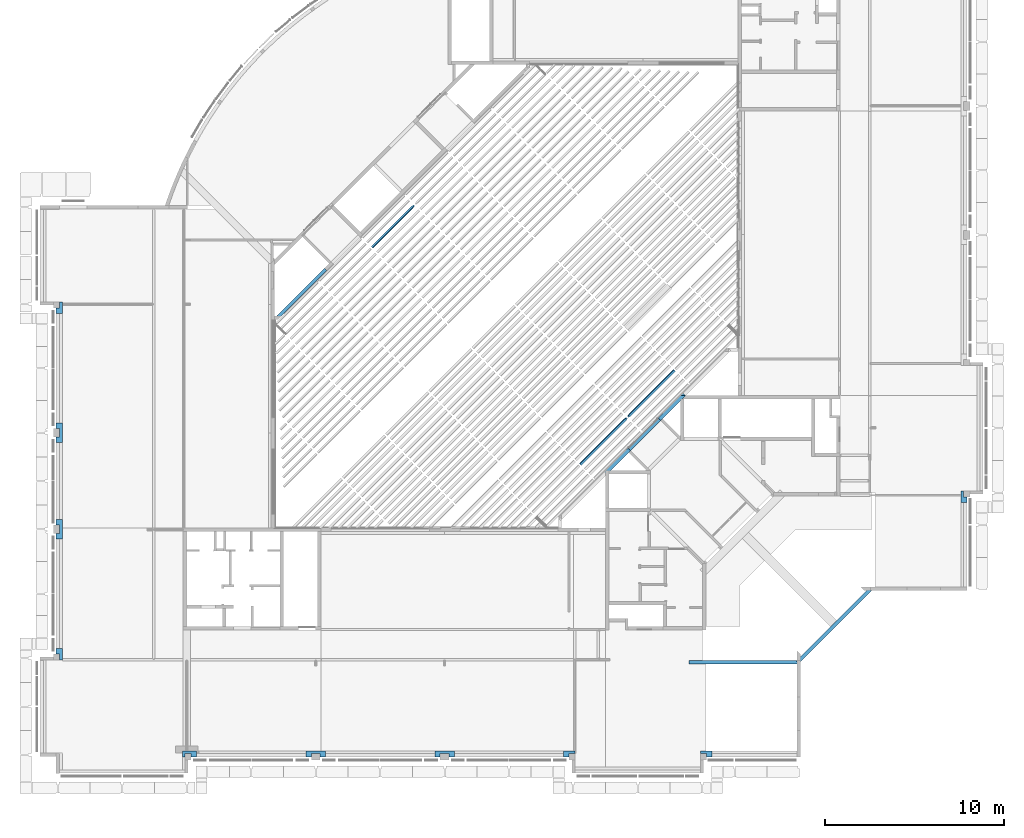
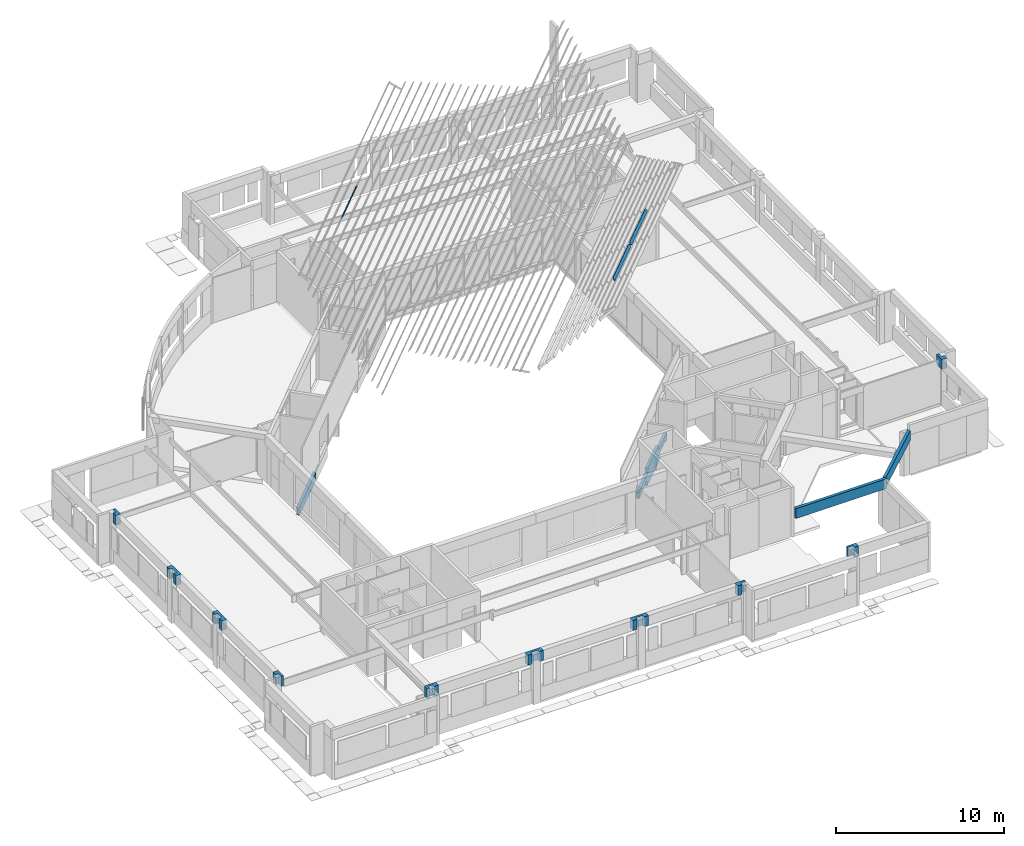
# One storey, part 32 of 37: 17 beams.
"""IFC4X3_ADD2 building model written with IfcOpenShell, lengths in millimetres."""

from ifc_helpers import new_model, si_unit, direction, frame, origin_with_axes, place, context, subcontext, project, spatial, triangles, polygons, source, transform, mapped, material, type_object, type_shapes, element, save


model = new_model("IFC4X3_ADD2")

# Units and contexts
model_context = context("Model", 3, precision=1e-05, world=origin_with_axes(), true_north=direction((0.0, 1.0)))
body_context = subcontext(model_context, "Body", "Model", "MODEL_VIEW")
ifc_project = project(units=[si_unit("LENGTHUNIT", "METRE", prefix="MILLI"), si_unit("AREAUNIT", "SQUARE_METRE"), si_unit("VOLUMEUNIT", "CUBIC_METRE"), si_unit("PLANEANGLEUNIT", "RADIAN"), si_unit("TIMEUNIT", "SECOND"), si_unit("MASSUNIT", "GRAM")], contexts=[model_context])

# Site, building, storey
site_placement = place(None, origin_with_axes())
site = spatial("IfcSite", under=ifc_project, at=site_placement, Name="Site", CompositionType="ELEMENT")
building_placement = place(site_placement, origin_with_axes())
building = spatial("IfcBuilding", under=site, at=building_placement, Name="IFC Building Story")
storey_placement = place(building_placement, frame((0.0, 0.0, 3600.0), z_axis=(0.0, 0.0, 1.0), x_axis=(1.0, 0.0, 0.0)))
storey = spatial("IfcBuildingStorey", under=building, at=storey_placement, Name="010", Elevation=3600.0)

# Beams
ifc_material_1 = material(Name="BB_Beton_Bestaand")
beam_type_1 = type_object("IfcBeamType", Name="BB_XX_Betonbalk_ rechthoekig_ center-center_SFB_340 x 720 mm87", PredefinedType="NOTDEFINED")
shared_shape_1 = source(origin_with_axes(), body_context, "Body", "Tessellation", [
    polygons([(-4.33146851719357e-12, 340.000000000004, 720.000000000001), (-4.33146851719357e-12, 340.000000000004, 0.0), (-4.33146851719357e-12, 3.51931817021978e-12, 0.0), (-4.33146851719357e-12, 3.51931817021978e-12, 720.000000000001), (1090.00000000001, 340.000000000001, 720.000000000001), (1090.00000000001, 0.0, 720.000000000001), (1090.00000000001, 0.0, 0.0), (1090.00000000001, 340.000000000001, 0.0), (789.999999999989, 0.0, 0.0), (789.999999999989, 190.000000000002, 0.0), (300.00000000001, 190.000000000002, 0.0), (300.00000000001, 2.5548896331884e-12, 0.0), (300.00000000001, 2.5548896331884e-12, 720.000000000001), (300.00000000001, 190.000000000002, 720.000000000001), (789.999999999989, 190.000000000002, 720.000000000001), (789.999999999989, 0.0, 720.000000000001)], [[[1, 2, 3, 4]], [[5, 6, 7, 8]], [[2, 1, 5, 8]], [[11, 12, 3]], [[11, 3, 2]], [[2, 8, 10]], [[2, 10, 11]], [[8, 7, 9]], [[8, 9, 10]], [[4, 3, 12, 13]], [[15, 16, 6]], [[15, 6, 5]], [[5, 1, 14]], [[5, 14, 15]], [[1, 4, 13]], [[1, 13, 14]], [[11, 14, 13, 12]], [[14, 11, 10, 15]], [[15, 10, 9, 16]], [[7, 6, 16, 9]]]),
])
type_shapes(beam_type_1, [shared_shape_1])
beam_1_placement = place(storey_placement, frame((-36845.0, -95.0, 2680.0), z_axis=(0.0, 0.0, 1.0), x_axis=(1.0, 0.0, 0.0)))
element("IfcBeam", 1, at=beam_1_placement, inside=storey, type_object=beam_type_1, material=ifc_material_1, Name="BB_XX_Betonbalk, rechthoekig, center-center_SFB:340 x 720 mm", ObjectType="BB_XX_Betonbalk, rechthoekig, center-center_SFB:340 x 720 mm", PredefinedType="BEAM", context=body_context, shape_type="MappedRepresentation", body=[
    mapped(shared_shape_1, transform((0.0, 0.0, 0.0))),
])
beam_type_2 = type_object("IfcBeamType", Name="BB_XX_Betonbalk_ rechthoekig_ center-center_SFB_340 x 720 mm89", PredefinedType="NOTDEFINED")
shared_shape_2 = source(origin_with_axes(), body_context, "Body", "Tessellation", [
    polygons([(-4.33146851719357e-12, 340.000000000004, 720.000000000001), (-4.33146851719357e-12, 340.000000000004, 0.0), (-4.33146851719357e-12, 3.53623796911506e-12, 0.0), (-4.33146851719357e-12, 3.53623796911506e-12, 720.000000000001), (1090.0, 340.000000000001, 720.000000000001), (1090.0, 0.0, 720.000000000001), (1090.0, 0.0, 0.0), (1090.0, 340.000000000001, 0.0), (789.999999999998, 0.0, 0.0), (789.999999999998, 190.0, 0.0), (299.999999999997, 190.0, 0.0), (299.999999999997, 2.57180943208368e-12, 0.0), (299.999999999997, 2.5548896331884e-12, 720.000000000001), (299.999999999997, 190.0, 720.000000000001), (789.999999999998, 190.0, 720.000000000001), (789.999999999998, 0.0, 720.000000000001)], [[[1, 2, 3, 4]], [[5, 6, 7, 8]], [[2, 1, 5, 8]], [[11, 12, 3]], [[11, 3, 2]], [[2, 8, 10]], [[2, 10, 11]], [[8, 7, 9]], [[8, 9, 10]], [[4, 3, 12, 13]], [[15, 16, 6]], [[15, 6, 5]], [[5, 1, 14]], [[5, 14, 15]], [[1, 4, 13]], [[1, 13, 14]], [[15, 10, 9, 16]], [[10, 15, 14, 11]], [[11, 14, 13, 12]], [[7, 6, 16, 9]]]),
])
type_shapes(beam_type_2, [shared_shape_2])
beam_2_placement = place(storey_placement, frame((-29645.0, -95.0, 2680.0), z_axis=(0.0, 0.0, 1.0), x_axis=(1.0, 0.0, 0.0)))
element("IfcBeam", 2, at=beam_2_placement, inside=storey, type_object=beam_type_2, material=ifc_material_1, Name="BB_XX_Betonbalk, rechthoekig, center-center_SFB:340 x 720 mm", ObjectType="BB_XX_Betonbalk, rechthoekig, center-center_SFB:340 x 720 mm", PredefinedType="BEAM", context=body_context, shape_type="MappedRepresentation", body=[
    mapped(shared_shape_2, transform((0.0, 0.0, 0.0))),
])
beam_type_3 = type_object("IfcBeamType", Name="BB_XX_Betonbalk_ rechthoekig_ center-center_SFB_340 x 720 mm91", PredefinedType="NOTDEFINED")
shared_shape_3 = source(origin_with_axes(), body_context, "Body", "Tessellation", [
    polygons([(0.0, 340.000000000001, 720.000000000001), (0.0, 340.000000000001, 0.0), (0.0, 0.0, 0.0), (0.0, 0.0, 720.000000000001), (639.999999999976, 339.999999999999, 0.0), (639.999999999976, 339.999999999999, 720.000000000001), (639.999999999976, 190.0, 720.000000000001), (639.999999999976, 190.0, 0.0), (300.000000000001, 190.0, 0.0), (300.000000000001, 0.0, 0.0), (300.000000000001, 0.0, 720.000000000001), (300.000000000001, 190.0, 720.000000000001)], [[[1, 2, 3, 4]], [[5, 6, 7, 8]], [[2, 1, 6, 5]], [[9, 10, 3]], [[9, 3, 2]], [[2, 5, 8]], [[2, 8, 9]], [[4, 3, 10, 11]], [[12, 7, 6]], [[12, 6, 1]], [[1, 4, 11]], [[1, 11, 12]], [[9, 12, 11, 10]], [[12, 9, 8, 7]]]),
])
type_shapes(beam_type_3, [shared_shape_3])
beam_3_placement = place(storey_placement, frame((-22445.0, -95.0, 2680.0), z_axis=(0.0, 0.0, 1.0), x_axis=(1.0, 0.0, 0.0)))
element("IfcBeam", 3, at=beam_3_placement, inside=storey, type_object=beam_type_3, material=ifc_material_1, Name="BB_XX_Betonbalk, rechthoekig, center-center_SFB:340 x 720 mm", ObjectType="BB_XX_Betonbalk, rechthoekig, center-center_SFB:340 x 720 mm", PredefinedType="BEAM", context=body_context, shape_type="MappedRepresentation", body=[
    mapped(shared_shape_3, transform((0.0, 0.0, 0.0))),
])
beam_type_4 = type_object("IfcBeamType", Name="BB_XX_Betonbalk_ rechthoekig_ center-center_SFB_340 x 720 mm97", PredefinedType="NOTDEFINED")
shared_shape_4 = source(origin_with_axes(), body_context, "Body", "Tessellation", [
    polygons([(2.16573425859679e-12, 340.000000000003, 720.000000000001), (2.16573425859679e-12, 340.000000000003, 0.0), (2.16573425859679e-12, 190.000000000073, 0.0), (2.16573425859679e-12, 190.000000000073, 720.000000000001), (639.999999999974, 340.000000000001, 720.000000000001), (639.999999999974, 0.0, 720.000000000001), (639.999999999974, 0.0, 0.0), (639.999999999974, 340.000000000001, 0.0), (339.999999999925, 0.0, 0.0), (339.999999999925, 190.000000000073, 0.0), (339.999999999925, 0.0, 720.000000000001), (339.999999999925, 190.000000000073, 720.000000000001)], [[[1, 2, 3, 4]], [[5, 6, 7, 8]], [[2, 1, 5, 8]], [[10, 3, 2]], [[10, 2, 8]], [[8, 7, 9]], [[8, 9, 10]], [[7, 6, 11, 9]], [[12, 11, 6]], [[12, 6, 5]], [[5, 1, 4]], [[5, 4, 12]], [[10, 12, 4, 3]], [[12, 10, 9, 11]]]),
])
type_shapes(beam_type_4, [shared_shape_4])
beam_4_placement = place(storey_placement, frame((-14795.0, -95.0, 2680.0), z_axis=(0.0, 0.0, 1.0), x_axis=(1.0, 0.0, 0.0)))
element("IfcBeam", 4, at=beam_4_placement, inside=storey, type_object=beam_type_4, material=ifc_material_1, Name="BB_XX_Betonbalk, rechthoekig, center-center_SFB:340 x 720 mm", ObjectType="BB_XX_Betonbalk, rechthoekig, center-center_SFB:340 x 720 mm", PredefinedType="BEAM", context=body_context, shape_type="MappedRepresentation", body=[
    mapped(shared_shape_4, transform((0.0, 0.0, 0.0))),
])
beam_type_5 = type_object("IfcBeamType", Name="BB_XX_Betonbalk_ rechthoekig_ center-center_SFB_340 x 720 mm103", PredefinedType="NOTDEFINED")
shared_shape_5 = source(origin_with_axes(), body_context, "Body", "Tessellation", [
    polygons([(339.999999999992, 0.0, 0.0), (339.999999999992, 0.0, 720.000000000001), (190.0, 0.0, 720.000000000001), (190.0, 0.0, 0.0), (-8.66293703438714e-12, 640.0, 720.000000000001), (339.999999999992, 640.0, 720.000000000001), (339.999999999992, 640.0, 0.0), (-8.66293703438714e-12, 640.0, 0.0), (0.0, 340.000000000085, 0.0), (-8.66293703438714e-12, 340.000000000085, 720.000000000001), (190.0, 340.000000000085, 0.0), (190.0, 340.000000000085, 720.000000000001)], [[[1, 2, 3, 4]], [[5, 6, 7, 8]], [[5, 8, 9, 10]], [[11, 9, 8]], [[11, 8, 7]], [[7, 1, 4]], [[7, 4, 11]], [[2, 1, 7, 6]], [[12, 3, 2]], [[12, 2, 6]], [[6, 5, 10]], [[6, 10, 12]], [[12, 11, 4, 3]], [[11, 12, 10, 9]]]),
])
type_shapes(beam_type_5, [shared_shape_5])
beam_5_placement = place(storey_placement, frame((-50795.0, 5335.0, 2680.0), z_axis=(0.0, 0.0, 1.0), x_axis=(1.0, 0.0, 0.0)))
element("IfcBeam", 5, at=beam_5_placement, inside=storey, type_object=beam_type_5, material=ifc_material_1, Name="BB_XX_Betonbalk, rechthoekig, center-center_SFB:340 x 720 mm", ObjectType="BB_XX_Betonbalk, rechthoekig, center-center_SFB:340 x 720 mm", PredefinedType="BEAM", context=body_context, shape_type="MappedRepresentation", body=[
    mapped(shared_shape_5, transform((0.0, 0.0, 0.0))),
])
beam_type_6 = type_object("IfcBeamType", Name="BB_XX_Betonbalk_ rechthoekig_ center-center_SFB_340 x 720 mm109", PredefinedType="NOTDEFINED")
shared_shape_6 = source(origin_with_axes(), body_context, "Body", "Tessellation", [
    polygons([(340.000000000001, 1090.0, 720.000000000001), (340.000000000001, 1090.0, 0.0), (0.0, 1090.0, 0.0), (0.0, 1090.0, 720.000000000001), (340.000000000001, 0.0, 720.000000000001), (0.0, 0.0, 720.000000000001), (0.0, 0.0, 0.0), (340.000000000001, 0.0, 0.0), (0.0, 300.000000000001, 0.0), (190.000000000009, 300.000000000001, 0.0), (190.000000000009, 789.999999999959, 0.0), (0.0, 789.999999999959, 0.0), (0.0, 789.999999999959, 720.000000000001), (190.000000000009, 789.999999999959, 720.000000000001), (190.000000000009, 300.000000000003, 720.000000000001), (0.0, 300.000000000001, 720.000000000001)], [[[1, 2, 3, 4]], [[5, 6, 7, 8]], [[2, 1, 5, 8]], [[11, 12, 3]], [[11, 3, 2]], [[2, 8, 10]], [[2, 10, 11]], [[8, 7, 9]], [[8, 9, 10]], [[4, 3, 12, 13]], [[15, 16, 6]], [[15, 6, 5]], [[5, 1, 14]], [[5, 14, 15]], [[1, 4, 13]], [[1, 13, 14]], [[10, 15, 14, 11]], [[11, 14, 13, 12]], [[15, 10, 9, 16]], [[7, 6, 16, 9]]]),
])
type_shapes(beam_type_6, [shared_shape_6])
beam_6_placement = place(storey_placement, frame((-50795.0, 12085.0, 2680.0), z_axis=(0.0, 0.0, 1.0), x_axis=(1.0, 0.0, 0.0)))
element("IfcBeam", 6, at=beam_6_placement, inside=storey, type_object=beam_type_6, material=ifc_material_1, Name="BB_XX_Betonbalk, rechthoekig, center-center_SFB:340 x 720 mm", ObjectType="BB_XX_Betonbalk, rechthoekig, center-center_SFB:340 x 720 mm", PredefinedType="BEAM", context=body_context, shape_type="MappedRepresentation", body=[
    mapped(shared_shape_6, transform((0.0, 0.0, 0.0))),
])
beam_type_7 = type_object("IfcBeamType", Name="BB_XX_Betonbalk_ rechthoekig_ center-center_SFB_340 x 720 mm111", PredefinedType="NOTDEFINED")
shared_shape_7 = source(origin_with_axes(), body_context, "Body", "Tessellation", [
    polygons([(339.999999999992, 1090.0, 720.000000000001), (339.999999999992, 1090.0, 0.0), (-8.66293703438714e-12, 1090.0, 0.0), (-8.66293703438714e-12, 1090.0, 720.000000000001), (339.999999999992, 0.0, 720.000000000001), (-8.66293703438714e-12, 0.0, 720.000000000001), (-8.66293703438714e-12, 0.0, 0.0), (339.999999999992, 0.0, 0.0), (-8.66293703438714e-12, 300.000000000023, 0.0), (190.0, 300.000000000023, 0.0), (190.0, 789.999999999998, 0.0), (-8.66293703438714e-12, 789.999999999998, 0.0), (-8.66293703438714e-12, 789.999999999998, 720.000000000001), (189.999999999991, 789.999999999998, 720.000000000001), (189.999999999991, 300.000000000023, 720.000000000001), (-8.66293703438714e-12, 300.000000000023, 720.000000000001)], [[[1, 2, 3, 4]], [[5, 6, 7, 8]], [[2, 1, 5, 8]], [[11, 12, 3]], [[11, 3, 2]], [[2, 8, 10]], [[2, 10, 11]], [[8, 7, 9]], [[8, 9, 10]], [[4, 3, 12, 13]], [[15, 16, 6]], [[15, 6, 5]], [[5, 1, 14]], [[5, 14, 15]], [[1, 4, 13]], [[1, 13, 14]], [[10, 15, 14, 11]], [[11, 14, 13, 12]], [[15, 10, 9, 16]], [[7, 6, 16, 9]]]),
])
type_shapes(beam_type_7, [shared_shape_7])
beam_7_placement = place(storey_placement, frame((-50795.0, 17485.0, 2680.0), z_axis=(0.0, 0.0, 1.0), x_axis=(1.0, 0.0, 0.0)))
element("IfcBeam", 7, at=beam_7_placement, inside=storey, type_object=beam_type_7, material=ifc_material_1, Name="BB_XX_Betonbalk, rechthoekig, center-center_SFB:340 x 720 mm", ObjectType="BB_XX_Betonbalk, rechthoekig, center-center_SFB:340 x 720 mm", PredefinedType="BEAM", context=body_context, shape_type="MappedRepresentation", body=[
    mapped(shared_shape_7, transform((0.0, 0.0, 0.0))),
])
beam_type_8 = type_object("IfcBeamType", Name="BB_XX_Betonbalk_ rechthoekig_ center-center_SFB_340 x 720 mm113", PredefinedType="NOTDEFINED")
shared_shape_8 = source(origin_with_axes(), body_context, "Body", "Tessellation", [
    polygons([(340.000000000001, 640.000000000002, 720.000000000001), (340.000000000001, 640.000000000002, 0.0), (190.000000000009, 640.000000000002, 0.0), (190.000000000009, 640.000000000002, 720.000000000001), (340.000000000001, 0.0, 720.000000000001), (0.0, 0.0, 720.000000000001), (0.0, 0.0, 0.0), (340.000000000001, 0.0, 0.0), (0.0, 300.000000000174, 0.0), (190.000000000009, 300.000000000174, 0.0), (0.0, 300.000000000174, 720.000000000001), (190.000000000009, 300.000000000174, 720.000000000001)], [[[1, 2, 3, 4]], [[5, 6, 7, 8]], [[2, 1, 5, 8]], [[10, 3, 2]], [[10, 2, 8]], [[8, 7, 9]], [[8, 9, 10]], [[7, 6, 11, 9]], [[12, 11, 6]], [[12, 6, 5]], [[5, 1, 4]], [[5, 4, 12]], [[10, 12, 4, 3]], [[12, 10, 9, 11]]]),
])
type_shapes(beam_type_8, [shared_shape_8])
beam_8_placement = place(storey_placement, frame((-50795.0, 24685.0, 2680.0), z_axis=(0.0, 0.0, 1.0), x_axis=(1.0, 0.0, 0.0)))
element("IfcBeam", 8, at=beam_8_placement, inside=storey, type_object=beam_type_8, material=ifc_material_1, Name="BB_XX_Betonbalk, rechthoekig, center-center_SFB:340 x 720 mm", ObjectType="BB_XX_Betonbalk, rechthoekig, center-center_SFB:340 x 720 mm", PredefinedType="BEAM", context=body_context, shape_type="MappedRepresentation", body=[
    mapped(shared_shape_8, transform((0.0, 0.0, 0.0))),
])
beam_type_9 = type_object("IfcBeamType", Name="BB_XX_Betonbalk_ rechthoekig_ center-center_SFB_340 x 720 mm153", PredefinedType="NOTDEFINED")
shared_shape_9 = source(origin_with_axes(), body_context, "Body", "Tessellation", [
    polygons([(790.000000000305, 0.0, 720.000000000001), (790.000000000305, 0.0, 0.0), (790.000000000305, 340.000000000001, 0.0), (790.000000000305, 340.000000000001, 720.000000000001), (0.0, 3.09632319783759e-12, 720.000000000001), (0.0, 340.000000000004, 720.000000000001), (0.0, 340.000000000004, 0.0), (0.0, 3.09632319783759e-12, 0.0), (490.00000000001, 1.18438592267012e-12, 720.000000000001), (490.00000000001, 1.18438592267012e-12, 0.0), (490.00000000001, 190.000000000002, 0.0), (150.0, 190.000000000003, 0.0), (150.0, 2.50413023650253e-12, 0.0), (150.0, 2.50413023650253e-12, 720.000000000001), (150.0, 190.000000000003, 720.000000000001), (490.00000000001, 190.000000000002, 720.000000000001)], [[[1, 2, 3, 4]], [[5, 6, 7, 8]], [[2, 1, 9, 10]], [[12, 13, 8]], [[12, 8, 7]], [[7, 3, 11]], [[7, 11, 12]], [[3, 2, 10]], [[3, 10, 11]], [[4, 3, 7, 6]], [[16, 9, 1]], [[16, 1, 4]], [[4, 6, 15]], [[4, 15, 16]], [[6, 5, 14]], [[6, 14, 15]], [[16, 11, 10, 9]], [[11, 16, 15, 12]], [[12, 15, 14, 13]], [[5, 8, 13, 14]]]),
])
type_shapes(beam_type_9, [shared_shape_9])
beam_9_placement = place(storey_placement, frame((-43745.0, -95.0, 2680.0), z_axis=(0.0, 0.0, 1.0), x_axis=(1.0, 0.0, 0.0)))
element("IfcBeam", 9, at=beam_9_placement, inside=storey, type_object=beam_type_9, material=ifc_material_1, Name="BB_XX_Betonbalk, rechthoekig, center-center_SFB:340 x 720 mm", ObjectType="BB_XX_Betonbalk, rechthoekig, center-center_SFB:340 x 720 mm", PredefinedType="BEAM", context=body_context, shape_type="MappedRepresentation", body=[
    mapped(shared_shape_9, transform((0.0, 0.0, 0.0))),
])
beam_type_10 = type_object("IfcBeamType", Name="BB_XX_Betonbalk_ rechthoekig_ center-center_SFB_190 x 720 mm21", PredefinedType="NOTDEFINED")
shared_shape_10 = source(origin_with_axes(), body_context, "Body", "Tessellation", [
    polygons([(4254.15610909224, 4119.80582066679, -1118.30914237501), (4159.87101934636, 4214.09091041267, -1118.30914237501), (4119.8058206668, 4254.15610909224, -1118.30914237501), (4144.8710193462, 4279.22130777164, -601.990385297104), (4144.8710193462, 4267.76352360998, -720.000000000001), (4159.87101934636, 4252.76352360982, -720.000000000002), (4273.49241569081, 4139.14212726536, -720.000000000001), (169.22130777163, 34.8710193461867, -1.08286712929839e-12), (38.5715961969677, 165.520730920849, 0.0), (34.8710193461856, 169.22130777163, -1.08286712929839e-12), (31.1704424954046, 165.520730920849, -76.2282902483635), (1.08286712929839e-12, 134.350288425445, -718.309142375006), (134.350288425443, 0.0, -718.309142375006), (151.765301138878, 17.4150127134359, -720.000000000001), (4224.8710193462, 4090.52073092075, -720.000000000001), (4224.8710193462, 4090.52073092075, -393.770957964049), (224.871019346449, 90.5207309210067, -5.40313927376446), (17.4150127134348, 151.76530113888, -720.000000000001), (34.8710193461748, 169.22130777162, -721.694837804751), (224.871019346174, 359.221307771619, -740.14230919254), (3956.17044249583, 4090.52073092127, -1102.4214636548), (4144.8710193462, 4090.52073092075, -389.887279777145), (4144.8710193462, 4090.52073092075, -720.000000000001), (4144.8710193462, 4279.22130777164, -400.0), (4144.8710193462, 4279.22130777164, -399.047933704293)], [[[5, 6, 2]], [[5, 2, 3]], [[3, 4, 5]], [[6, 7, 1]], [[6, 1, 2]], [[11, 12, 9]], [[9, 10, 11]], [[12, 13, 8]], [[12, 8, 9]], [[17, 8, 14]], [[14, 15, 16]], [[14, 16, 17]], [[14, 1, 15]], [[1, 7, 15]], [[8, 13, 14]], [[14, 13, 12]], [[12, 2, 1]], [[12, 1, 14]], [[21, 3, 2]], [[2, 20, 21]], [[2, 19, 20]], [[2, 18, 19]], [[2, 12, 18]], [[24, 25, 22]], [[22, 23, 4]], [[22, 4, 24]], [[23, 5, 4]], [[6, 5, 23]], [[23, 15, 7]], [[23, 7, 6]], [[23, 22, 16, 15]], [[11, 10, 25]], [[11, 25, 24]], [[18, 12, 11]], [[11, 19, 18]], [[11, 20, 19]], [[11, 4, 21]], [[11, 21, 20]], [[4, 3, 21]], [[11, 24, 4]], [[17, 16, 22]], [[17, 22, 9]], [[9, 8, 17]], [[22, 25, 10]], [[22, 10, 9]]]),
    triangles([(4154.67684001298, 4289.02712843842, -399.999999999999), (4146.17044249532, 4280.52073092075, -575.223530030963), (4146.17044249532, 4280.52073092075, -399.174097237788), (4163.18323753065, 4280.52073092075, -399.999999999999)], [[1, 2, 3], [4, 1, 3], [2, 4, 3], [2, 1, 4]]),
])
type_shapes(beam_type_10, [shared_shape_10])
beam_10_placement = place(storey_placement, frame((-9449.87101934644, 5134.47926907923, 3400.0), z_axis=(0.0, 0.0, 1.0), x_axis=(1.0, 0.0, 0.0)))
element("IfcBeam", 10, at=beam_10_placement, inside=storey, type_object=beam_type_10, material=ifc_material_1, Name="BB_XX_Betonbalk, rechthoekig, center-center_SFB:190 x 720 mm", ObjectType="BB_XX_Betonbalk, rechthoekig, center-center_SFB:190 x 720 mm", PredefinedType="BEAM", context=body_context, shape_type="MappedRepresentation", body=[
    mapped(shared_shape_10, transform((0.0, 0.0, 0.0))),
])
beam_type_11 = type_object("IfcBeamType", Name="BB_XX_Betonbalk_ rechthoekig_ center-center_SFB_200 x 720 mm19", PredefinedType="NOTDEFINED")
shared_shape_11 = source(origin_with_axes(), body_context, "Body", "Tessellation", [
    polygons([(0.0, 200.000000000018, 720.000000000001), (0.0, 200.000000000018, 460.000000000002), (0.0, 200.000000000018, 1.08286712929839e-12), (0.0, 140.000000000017, 1.08286712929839e-12), (0.0, 1.84087411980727e-11, 1.08286712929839e-12), (0.0, 1.84087411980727e-11, 460.000000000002), (0.0, 1.84087411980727e-11, 720.000000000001), (6230.0, 199.999999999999, 720.000000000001), (6230.0, -1.08286712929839e-12, 720.000000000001), (6230.0, -1.08286712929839e-12, 1.08286712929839e-12), (6230.0, 125.000000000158, 1.08286712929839e-12), (6230.0, 125.000000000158, 714.596860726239), (6230.0, 199.999999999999, 710.955912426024), (955.000000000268, 200.000000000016, 720.000000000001), (6039.99999999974, 200.0, 720.000000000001), (6043.70057685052, 200.0, 720.000000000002), (6036.29942314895, 200.0, 643.77170975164), (6036.29942314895, 199.999999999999, 0.0), (140.0, 200.000000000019, 1.08286712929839e-12), (6022.54399336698, 186.24457021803, 1.08286712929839e-12), (6156.89428179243, 51.8942817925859, 1.08286712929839e-12), (6039.99999999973, 0.0, 1.08286712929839e-12), (6039.99999999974, 0.0, 720.000000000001), (955.000000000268, 1.62430069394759e-11, 720.000000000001), (6139.47926907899, 34.4792690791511, 1.69085762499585), (6005.12898065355, 168.829557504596, 1.69085762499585), (6174.35028842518, 69.3502884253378, 720.000000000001)], [[[4, 5, 6]], [[4, 6, 2]], [[2, 3, 4]], [[6, 7, 1]], [[6, 1, 2]], [[12, 13, 8]], [[12, 8, 9]], [[9, 10, 11]], [[9, 11, 12]], [[15, 16, 17]], [[17, 2, 14]], [[17, 14, 15]], [[2, 1, 14]], [[19, 3, 2]], [[2, 17, 18]], [[2, 18, 19]], [[19, 18, 20]], [[19, 20, 4]], [[4, 3, 19]], [[21, 11, 10]], [[22, 5, 4]], [[22, 4, 20]], [[22, 20, 21]], [[21, 10, 22]], [[22, 10, 9]], [[9, 6, 5]], [[9, 5, 22]], [[24, 7, 6]], [[6, 23, 24]], [[6, 9, 23]], [[16, 15, 23]], [[23, 9, 8]], [[23, 8, 16]], [[15, 14, 24]], [[15, 24, 23]], [[14, 1, 7]], [[14, 7, 24]], [[17, 16, 27]], [[27, 25, 26]], [[27, 26, 17]], [[26, 25, 21, 20]], [[27, 16, 13, 12]], [[21, 25, 27]], [[27, 12, 11]], [[27, 11, 21]], [[17, 26, 20, 18]], [[8, 13, 16]]]),
])
type_shapes(beam_type_11, [shared_shape_11])
beam_11_placement = place(storey_placement, frame((-15455.0, 5100.0, 2680.0), z_axis=(0.0, 0.0, 1.0), x_axis=(1.0, 0.0, 0.0)))
element("IfcBeam", 11, at=beam_11_placement, inside=storey, type_object=beam_type_11, material=ifc_material_1, Name="BB_XX_Betonbalk, rechthoekig, center-center_SFB:200 x 720 mm", ObjectType="BB_XX_Betonbalk, rechthoekig, center-center_SFB:200 x 720 mm", PredefinedType="BEAM", context=body_context, shape_type="MappedRepresentation", body=[
    mapped(shared_shape_11, transform((0.0, 0.0, 0.0))),
])
beam_type_12 = type_object("IfcBeamType", Name="BB_XX_Betonbalk_ rechthoekig_ center-center_SFB_340 x 720 mm155", PredefinedType="NOTDEFINED")
shared_shape_12 = source(origin_with_axes(), body_context, "Body", "Tessellation", [
    polygons([(0.0, 0.0, 720.000000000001), (0.0, 0.0, 0.0), (340.000000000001, 0.0, 0.0), (340.000000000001, 0.0, 720.000000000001), (1.04902753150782e-12, 640.000000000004, 0.0), (1.04902753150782e-12, 640.000000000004, 720.000000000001), (150.000000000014, 640.000000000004, 720.000000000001), (150.000000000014, 640.000000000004, 0.0), (150.000000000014, 300.000000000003, 0.0), (340.000000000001, 300.000000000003, 0.0), (340.000000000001, 300.000000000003, 720.000000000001), (150.000000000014, 300.000000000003, 720.000000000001)], [[[1, 2, 3, 4]], [[5, 6, 7, 8]], [[2, 1, 6, 5]], [[9, 10, 3]], [[9, 3, 2]], [[2, 5, 8]], [[2, 8, 9]], [[4, 3, 10, 11]], [[12, 7, 6]], [[12, 6, 1]], [[1, 4, 11]], [[1, 11, 12]], [[9, 12, 11, 10]], [[12, 9, 8, 7]]]),
])
type_shapes(beam_type_12, [shared_shape_12])
beam_12_placement = place(storey_placement, frame((-245.0, 14135.0, 2680.0), z_axis=(0.0, 0.0, 1.0), x_axis=(1.0, 0.0, 0.0)))
element("IfcBeam", 12, at=beam_12_placement, inside=storey, type_object=beam_type_12, material=ifc_material_1, Name="BB_XX_Betonbalk, rechthoekig, center-center_SFB:340 x 720 mm", ObjectType="BB_XX_Betonbalk, rechthoekig, center-center_SFB:340 x 720 mm", PredefinedType="BEAM", context=body_context, shape_type="MappedRepresentation", body=[
    mapped(shared_shape_12, transform((0.0, 0.0, 0.0))),
])
ifc_material_2 = material(Name="GVH_i2_naaldhout_generiek")
beam_type_13 = type_object("IfcBeamType", Name="28_SF_hout_rechthoekig_40 x 230_129", PredefinedType="NOTDEFINED")
shared_shape_13 = source(origin_with_axes(), body_context, "Body", "Tessellation", [
    polygons([(97.1289361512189, 4.33146851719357e-12, -17.6458523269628), (71.7456355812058, 25.3833005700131, 0.0), (0.0, 97.1289361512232, -206.410095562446), (25.3833005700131, 71.7456355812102, -224.055947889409), (2379.16510701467, 2409.30668963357, -200.722632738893), (2353.78180644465, 2434.68999020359, -183.07678041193), (2404.93610072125, 2383.53569592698, -35.9073716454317), (2430.31940129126, 2358.15239535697, -53.5532239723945), (2365.0186204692, 2267.88968431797, -17.6458523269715), (2339.6353198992, 2293.27298488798, -4.33146851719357e-12), (2327.15435479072, 2305.75394999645, -35.9073716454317), (2276.00006051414, 2356.90824427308, -183.07678041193), (2267.88968431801, 2365.01862046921, -206.410095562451), (2293.27298488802, 2339.6353198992, -224.055947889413), (2301.38336108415, 2331.52494370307, -200.722632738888), (2352.53765536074, 2280.37064942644, -53.5532239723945)], [[[1, 2, 3, 4]], [[5, 6, 7, 8]], [[2, 1, 9, 10]], [[12, 13, 11]], [[11, 7, 6]], [[11, 6, 12]], [[11, 13, 3]], [[11, 3, 2]], [[2, 10, 11]], [[4, 3, 13, 14]], [[16, 9, 15]], [[15, 5, 8]], [[15, 8, 16]], [[15, 9, 1]], [[15, 1, 4]], [[4, 14, 15]], [[12, 15, 14, 13]], [[15, 12, 6, 5]], [[16, 11, 10, 9]], [[11, 16, 8, 7]]]),
])
type_shapes(beam_type_13, [shared_shape_13])
beam_13_placement = place(storey_placement, frame((-33191.5157142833, 28332.3308261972, 16692.2438700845), z_axis=(0.0, 0.0, 1.0), x_axis=(1.0, 0.0, 0.0)))
element("IfcBeam", 13, at=beam_13_placement, inside=storey, type_object=beam_type_13, material=ifc_material_2, Name="28_SF_hout_rechthoekig:40 x 230", ObjectType="28_SF_hout_rechthoekig:40 x 230", PredefinedType="BEAM", context=body_context, shape_type="MappedRepresentation", body=[
    mapped(shared_shape_13, transform((0.0, 0.0, 0.0))),
])
beam_type_14 = type_object("IfcBeamType", Name="28_SF_hout_rechthoekig_40 x 230_623", PredefinedType="NOTDEFINED")
shared_shape_14 = source(origin_with_axes(), body_context, "Body", "Tessellation", [
    polygons([(2625.36185805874, 2709.10266000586, 156.046001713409), (2648.59158326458, 2685.87293480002, 178.866162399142), (2707.08562279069, 2627.37889527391, 59.7784414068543), (2683.85589758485, 2650.60862047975, 36.9582807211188), (0.0, 116.01339482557, 188.897806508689), (92.7836696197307, 23.2297252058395, 2.16573425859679e-12), (116.013394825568, 0.0, 22.8201606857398), (23.2297252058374, 92.7836696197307, 211.717967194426), (2561.74460870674, 2631.29855312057, 211.717967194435), (2538.5148835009, 2654.52827832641, 188.897806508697), (2654.52827832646, 2538.51488350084, 22.8201606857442), (2636.37494467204, 2556.66821715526, 59.7784414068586), (2577.88090514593, 2615.16225668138, 178.866162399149), (2631.29855312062, 2561.74460870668, 8.66293703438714e-12), (2554.65117994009, 2638.39198188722, 156.046001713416), (2613.1452194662, 2579.8979423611, 36.9582807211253)], [[[1, 2, 3, 4]], [[5, 6, 7, 8]], [[5, 8, 9, 10]], [[13, 9, 12]], [[12, 3, 2]], [[12, 2, 13]], [[12, 9, 8]], [[12, 8, 7]], [[7, 11, 12]], [[7, 6, 14, 11]], [[15, 1, 4]], [[15, 4, 16]], [[16, 14, 6]], [[6, 15, 16]], [[6, 5, 10]], [[6, 10, 15]], [[13, 15, 10, 9]], [[15, 13, 2, 1]], [[16, 12, 11, 14]], [[12, 16, 4, 3]]]),
])
type_shapes(beam_type_14, [shared_shape_14])
beam_14_placement = place(storey_placement, frame((-21579.0488962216, 16187.8074484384, 15271.2016434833), z_axis=(0.0, 0.0, 1.0), x_axis=(1.0, 0.0, 0.0)))
element("IfcBeam", 14, at=beam_14_placement, inside=storey, type_object=beam_type_14, material=ifc_material_2, Name="28_SF_hout_rechthoekig:40 x 230", ObjectType="28_SF_hout_rechthoekig:40 x 230", PredefinedType="BEAM", context=body_context, shape_type="MappedRepresentation", body=[
    mapped(shared_shape_14, transform((0.0, 0.0, 0.0))),
])
beam_type_15 = type_object("IfcBeamType", Name="28_SF_hout_rechthoekig_40 x 230_639", PredefinedType="NOTDEFINED")
shared_shape_15 = source(origin_with_axes(), body_context, "Body", "Tessellation", [
    polygons([(2593.08927764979, 2707.08563526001, 188.897806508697), (2616.31900285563, 2683.85591005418, 211.717967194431), (2709.10267247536, 2591.07224043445, 22.8201606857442), (2685.87294726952, 2614.30196564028, 1.08286712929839e-11), (23.2297252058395, 58.4940395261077, 178.866162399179), (-2.16573425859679e-12, 81.7237647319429, 156.046001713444), (58.4940395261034, 23.2297252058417, 36.9582807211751), (81.7237647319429, 4.33146851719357e-12, 59.7784414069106), (54.5743816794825, 168.570739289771, 188.897806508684), (77.8041068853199, 145.341014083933, 211.717967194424), (93.9404033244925, 129.204717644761, 178.866162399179), (152.434442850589, 70.7106781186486, 59.7784414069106), (170.587776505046, 52.5573444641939, 22.8201606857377), (147.358051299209, 75.7870696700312, 2.16573425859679e-12), (129.204717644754, 93.9404033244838, 36.9582807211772), (70.7106781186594, 152.434442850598, 156.046001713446)], [[[1, 2, 3, 4]], [[5, 6, 7, 8]], [[2, 1, 9, 10]], [[12, 13, 11]], [[11, 5, 8]], [[11, 8, 12]], [[11, 13, 3]], [[11, 3, 2]], [[2, 10, 11]], [[4, 3, 13, 14]], [[15, 7, 6]], [[15, 6, 16]], [[16, 9, 1]], [[1, 15, 16]], [[1, 4, 14]], [[1, 14, 15]], [[11, 16, 6, 5]], [[16, 11, 10, 9]], [[15, 12, 8, 7]], [[12, 15, 14, 13]]]),
])
type_shapes(beam_type_15, [shared_shape_15])
beam_15_placement = place(storey_placement, frame((-18897.1200348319, 18871.7533472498, 15271.2016433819), z_axis=(0.0, 0.0, 1.0), x_axis=(1.0, 0.0, 0.0)))
element("IfcBeam", 15, at=beam_15_placement, inside=storey, type_object=beam_type_15, material=ifc_material_2, Name="28_SF_hout_rechthoekig:40 x 230", ObjectType="28_SF_hout_rechthoekig:40 x 230", PredefinedType="BEAM", context=body_context, shape_type="MappedRepresentation", body=[
    mapped(shared_shape_15, transform((0.0, 0.0, 0.0))),
])
beam_type_16 = type_object("IfcBeamType", Name="BB_XX_Betonbalk_ rechthoekig_ center-center_SFB_190 x 600 mm1", PredefinedType="NOTDEFINED")
shared_shape_16 = source(origin_with_axes(), body_context, "Body", "Tessellation", [
    polygons([(2805.23364800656, 2738.03329244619, 600.00000000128), (2805.2336480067, 2738.03329244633, 1.2799489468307e-09), (2670.88335958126, 2872.38358087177, 1.2799489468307e-09), (2670.88335958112, 2872.38358087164, 600.00000000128), (67.2003555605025, 1.42938461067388e-10, 0.0), (67.2003555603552, 4.33146851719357e-12, 600.0), (65.7001342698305, 1.50022129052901, 600.0), (65.7001342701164, 1.50022129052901, 0.0), (66.0397765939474, 1.50022129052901, 5.41433564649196e-12), (66.0397765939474, 201.500221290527, 3.62760488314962e-11), (-4.33146851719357e-12, 201.500221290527, 3.14031467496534e-11), (-4.33146851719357e-12, 201.500221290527, 600.000000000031), (66.0397765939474, 201.500221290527, 600.000000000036), (66.0397765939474, 1.50022129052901, 600.000000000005)], [[[1, 2, 3, 4]], [[5, 6, 7, 8]], [[2, 1, 6, 5]], [[10, 11, 3]], [[3, 2, 5]], [[3, 5, 9]], [[3, 9, 10]], [[5, 8, 9]], [[4, 3, 11, 12]], [[14, 7, 6]], [[6, 1, 4]], [[6, 4, 13]], [[6, 13, 14]], [[4, 12, 13]], [[9, 14, 13, 10]], [[10, 13, 12, 11]], [[14, 9, 8, 7]]]),
])
type_shapes(beam_type_16, [shared_shape_16])
beam_16_placement = place(storey_placement, frame((-38473.965971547, 24353.4997787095, -800.0), z_axis=(0.0, 0.0, 1.0), x_axis=(1.0, 0.0, 0.0)))
element("IfcBeam", 16, at=beam_16_placement, inside=storey, type_object=beam_type_16, material=ifc_material_1, Name="BB_XX_Betonbalk, rechthoekig, center-center_SFB:190 x 600 mm", ObjectType="BB_XX_Betonbalk, rechthoekig, center-center_SFB:190 x 600 mm", PredefinedType="BEAM", context=body_context, shape_type="MappedRepresentation", body=[
    mapped(shared_shape_16, transform((0.0, 0.0, 0.0))),
])
beam_type_17 = type_object("IfcBeamType", Name="BB_XX_Betonbalk_ rechthoekig_ center-center_SFB_190 x 1180 mm", PredefinedType="NOTDEFINED")
shared_shape_17 = source(origin_with_axes(), body_context, "Body", "Tessellation", [
    polygons([(0.0, 134.350288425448, 330.000000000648), (134.350288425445, 6.49720277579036e-12, 330.000000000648), (134.350288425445, 6.49720277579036e-12, 730.000000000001), (0.0, 134.350288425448, 730.000000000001), (4651.04781124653, 4516.69752282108, 330.000000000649), (4516.69752282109, 4651.04781124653, 330.000000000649), (4516.69752282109, 4651.04781124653, 730.000000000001), (4648.22877724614, 4519.51655682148, 730.000000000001), (4648.22877724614, 4519.51655682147, 850.000000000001), (4651.04781124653, 4516.69752282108, 850.000000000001), (1300.11443158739, 1434.46472001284, 0.0), (1300.1144315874, 1434.46472001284, 450.000000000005), (200.166268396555, 334.516556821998, 450.000000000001), (200.166268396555, 334.516556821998, 330.000000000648), (0.166268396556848, 134.516556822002, 730.000000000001), (0.166268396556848, 134.516556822, 850.0), (1444.46807401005, 1578.81836243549, 850.0), (1444.46807401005, 1578.8183624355, 1180.0), (3138.59206267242, 3272.94235109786, 1180.0), (3138.59206267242, 3272.94235109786, 849.999999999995), (4385.16626839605, 4519.51655682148, 850.0), (4385.16626839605, 4519.51655682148, 730.000000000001), (4185.16626839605, 4319.51655682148, 330.000000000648), (4185.16626839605, 4319.51655682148, 450.000000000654), (3277.50331503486, 3411.85360346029, 450.00000000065), (3277.50331503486, 3411.8536034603, 0.0), (3138.59206267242, 3272.94235109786, 0.0), (1439.16477315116, 1573.5150615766, 0.0), (3411.8536034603, 3277.50331503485, 0.0), (3272.94235109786, 3138.59206267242, 0.0), (1573.5150615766, 1439.16477315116, 0.0), (1434.46472001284, 1300.11443158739, 0.0), (1434.46472001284, 1300.11443158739, 450.000000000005), (3411.8536034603, 3277.50331503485, 450.00000000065), (4453.86684524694, 4319.51655682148, 450.000000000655), (4453.86684524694, 4319.51655682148, 330.000000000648), (3272.94235109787, 3138.59206267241, 849.999999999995), (3272.94235109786, 3138.59206267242, 1180.0), (1578.81836243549, 1444.46807401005, 1180.0), (1578.8183624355, 1444.46807401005, 850.0), (268.866845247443, 134.516556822, 850.0), (268.866845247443, 134.516556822, 730.000000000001), (468.866845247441, 334.516556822, 330.000000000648), (468.866845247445, 334.516556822, 450.000000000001)], [[[1, 2, 3, 4]], [[8, 9, 10]], [[8, 10, 5]], [[5, 6, 7]], [[5, 7, 8]], [[13, 14, 1]], [[17, 18, 19]], [[19, 12, 17]], [[12, 13, 15]], [[12, 15, 16]], [[12, 16, 17]], [[13, 1, 4]], [[13, 4, 15]], [[22, 7, 6]], [[22, 6, 23]], [[22, 23, 24]], [[28, 11, 12]], [[12, 20, 25]], [[12, 25, 27]], [[12, 27, 28]], [[25, 26, 27]], [[20, 21, 22]], [[20, 22, 24]], [[20, 24, 25]], [[12, 19, 20]], [[27, 26, 29]], [[27, 29, 30]], [[31, 32, 11]], [[31, 11, 28]], [[28, 27, 30]], [[28, 30, 31]], [[35, 36, 5]], [[35, 5, 10]], [[10, 37, 34]], [[10, 34, 35]], [[37, 30, 29]], [[37, 29, 34]], [[37, 38, 33]], [[33, 31, 30]], [[33, 30, 37]], [[33, 32, 31]], [[42, 3, 2]], [[42, 2, 43]], [[42, 43, 44]], [[44, 33, 40]], [[44, 40, 41]], [[44, 41, 42]], [[40, 33, 38]], [[38, 39, 40]], [[19, 18, 39, 38]], [[14, 43, 2, 1]], [[33, 12, 11, 32]], [[12, 33, 44, 13]], [[6, 5, 36, 23]], [[34, 25, 24, 35]], [[25, 34, 29, 26]], [[43, 14, 13, 44]], [[23, 36, 35, 24]], [[17, 40, 39, 18]], [[37, 20, 19, 38]], [[40, 17, 16, 41]], [[20, 37, 10]], [[20, 10, 9]], [[20, 9, 21]], [[42, 15, 4, 3]], [[15, 42, 41, 16]], [[22, 8, 7]], [[21, 9, 8, 22]]]),
])
type_shapes(beam_type_17, [shared_shape_17])
beam_17_placement = place(storey_placement, frame((-20289.8146058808, 15580.4834431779, -930.0), z_axis=(0.0, 0.0, 1.0), x_axis=(1.0, 0.0, 0.0)))
element("IfcBeam", 17, at=beam_17_placement, inside=storey, type_object=beam_type_17, material=ifc_material_1, Name="BB_XX_Betonbalk, rechthoekig, center-center_SFB:190 x 1180 mm", ObjectType="BB_XX_Betonbalk, rechthoekig, center-center_SFB:190 x 1180 mm", PredefinedType="BEAM", context=body_context, shape_type="MappedRepresentation", body=[
    mapped(shared_shape_17, transform((0.0, 0.0, 0.0))),
])

save(model, "model.ifc")
